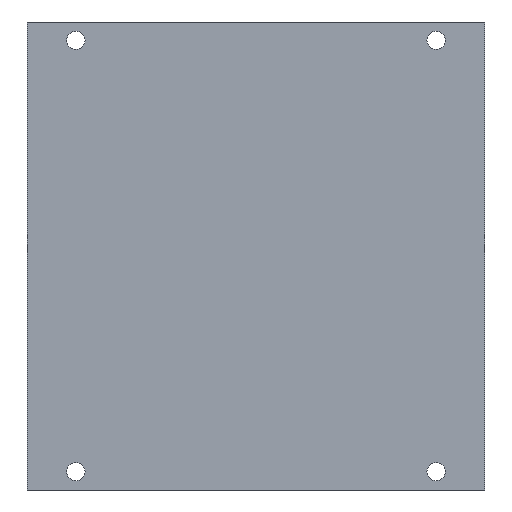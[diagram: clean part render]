
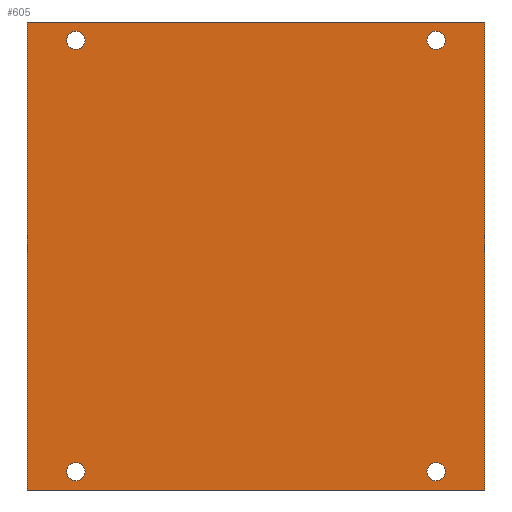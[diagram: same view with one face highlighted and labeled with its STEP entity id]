
A CAD part, front view. The second image highlights one B-rep face of the part: STEP entity #605.
In plain terms, the highlighted planar face has unit normal (0, -1, 0).
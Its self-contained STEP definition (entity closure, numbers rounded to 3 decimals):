
#18 = DIRECTION ( 'NONE',  ( 0., 1., 0. ) ) ;
#23 = FACE_BOUND ( 'NONE', #610, .T. ) ;
#31 = DIRECTION ( 'NONE',  ( 0., 1., 0. ) ) ;
#37 = CIRCLE ( 'NONE', #648, 0.9 ) ;
#39 = VERTEX_POINT ( 'NONE', #548 ) ;
#46 = ORIENTED_EDGE ( 'NONE', *, *, #581, .T. ) ;
#52 = AXIS2_PLACEMENT_3D ( 'NONE', #341, #337, #569 ) ;
#64 = LINE ( 'NONE', #635, #478 ) ;
#81 = CARTESIAN_POINT ( 'NONE',  ( -34.097, 0., -15.024 ) ) ;
#99 = EDGE_LOOP ( 'NONE', ( #46, #669 ) ) ;
#101 = DIRECTION ( 'NONE',  ( 0., 0., 1. ) ) ;
#102 = VERTEX_POINT ( 'NONE', #597 ) ;
#103 = DIRECTION ( 'NONE',  ( 0., 1., 0. ) ) ;
#106 = VERTEX_POINT ( 'NONE', #385 ) ;
#107 = DIRECTION ( 'NONE',  ( 0., 0., 1. ) ) ;
#109 = CARTESIAN_POINT ( 'NONE',  ( -69.497, 0., 27.376 ) ) ;
#121 = CARTESIAN_POINT ( 'NONE',  ( -74.297, 0., 29.176 ) ) ;
#138 = CIRCLE ( 'NONE', #197, 0.9 ) ;
#142 = FACE_OUTER_BOUND ( 'NONE', #378, .T. ) ;
#156 = CIRCLE ( 'NONE', #52, 0.9 ) ;
#165 = DIRECTION ( 'NONE',  ( 0., 0., 1. ) ) ;
#173 = CARTESIAN_POINT ( 'NONE',  ( -74.297, 0., -16.824 ) ) ;
#175 = VERTEX_POINT ( 'NONE', #432 ) ;
#178 = EDGE_CURVE ( 'NONE', #102, #677, #707, .T. ) ;
#180 = CARTESIAN_POINT ( 'NONE',  ( -74.297, 0., -16.824 ) ) ;
#186 = CARTESIAN_POINT ( 'NONE',  ( -69.497, 0., 26.476 ) ) ;
#197 = AXIS2_PLACEMENT_3D ( 'NONE', #268, #103, #101 ) ;
#211 = VERTEX_POINT ( 'NONE', #186 ) ;
#212 = CIRCLE ( 'NONE', #520, 0.9 ) ;
#213 = VECTOR ( 'NONE', #405, 1000. ) ;
#217 = ORIENTED_EDGE ( 'NONE', *, *, #366, .T. ) ;
#232 = VERTEX_POINT ( 'NONE', #474 ) ;
#233 = LINE ( 'NONE', #173, #311 ) ;
#236 = ORIENTED_EDGE ( 'NONE', *, *, #642, .T. ) ;
#238 = DIRECTION ( 'NONE',  ( 0., 0., 1. ) ) ;
#243 = LINE ( 'NONE', #348, #213 ) ;
#249 = DIRECTION ( 'NONE',  ( 0., 0., 1. ) ) ;
#255 = CARTESIAN_POINT ( 'NONE',  ( -69.497, 0., 27.376 ) ) ;
#268 = CARTESIAN_POINT ( 'NONE',  ( -34.097, 0., 27.376 ) ) ;
#276 = CARTESIAN_POINT ( 'NONE',  ( -69.497, 0., -15.024 ) ) ;
#278 = DIRECTION ( 'NONE',  ( 0., 0., 1. ) ) ;
#283 = VERTEX_POINT ( 'NONE', #644 ) ;
#291 = CARTESIAN_POINT ( 'NONE',  ( -34.097, 0., -14.124 ) ) ;
#299 = EDGE_LOOP ( 'NONE', ( #624, #692 ) ) ;
#300 = DIRECTION ( 'NONE',  ( 1., 0., 0. ) ) ;
#307 = EDGE_CURVE ( 'NONE', #677, #102, #212, .T. ) ;
#311 = VECTOR ( 'NONE', #238, 1000. ) ;
#313 = DIRECTION ( 'NONE',  ( 0., 1., 0. ) ) ;
#317 = CARTESIAN_POINT ( 'NONE',  ( -69.497, 0., -15.024 ) ) ;
#318 = DIRECTION ( 'NONE',  ( 0., 0., 1. ) ) ;
#324 = AXIS2_PLACEMENT_3D ( 'NONE', #317, #31, #705 ) ;
#328 = ORIENTED_EDGE ( 'NONE', *, *, #459, .F. ) ;
#334 = ORIENTED_EDGE ( 'NONE', *, *, #496, .F. ) ;
#337 = DIRECTION ( 'NONE',  ( 0., 1., 0. ) ) ;
#341 = CARTESIAN_POINT ( 'NONE',  ( -34.097, 0., -15.024 ) ) ;
#344 = VECTOR ( 'NONE', #300, 1000. ) ;
#348 = CARTESIAN_POINT ( 'NONE',  ( -29.297, 0., -16.824 ) ) ;
#363 = CARTESIAN_POINT ( 'NONE',  ( -34.097, 0., 27.376 ) ) ;
#364 = EDGE_CURVE ( 'NONE', #39, #211, #449, .T. ) ;
#366 = EDGE_CURVE ( 'NONE', #441, #175, #156, .T. ) ;
#369 = FACE_BOUND ( 'NONE', #434, .T. ) ;
#372 = CARTESIAN_POINT ( 'NONE',  ( 0., 0., 0. ) ) ;
#377 = PLANE ( 'NONE',  #539 ) ;
#378 = EDGE_LOOP ( 'NONE', ( #549, #334, #328, #516 ) ) ;
#385 = CARTESIAN_POINT ( 'NONE',  ( -34.097, 0., 26.476 ) ) ;
#387 = AXIS2_PLACEMENT_3D ( 'NONE', #109, #621, #107 ) ;
#389 = VERTEX_POINT ( 'NONE', #180 ) ;
#398 = VERTEX_POINT ( 'NONE', #700 ) ;
#405 = DIRECTION ( 'NONE',  ( 0., 0., -1. ) ) ;
#421 = FACE_BOUND ( 'NONE', #99, .T. ) ;
#432 = CARTESIAN_POINT ( 'NONE',  ( -34.097, 0., -15.924 ) ) ;
#434 = EDGE_LOOP ( 'NONE', ( #217, #566 ) ) ;
#438 = DIRECTION ( 'NONE',  ( 0., 1., 0. ) ) ;
#441 = VERTEX_POINT ( 'NONE', #291 ) ;
#449 = CIRCLE ( 'NONE', #387, 0.9 ) ;
#459 = EDGE_CURVE ( 'NONE', #232, #398, #243, .T. ) ;
#474 = CARTESIAN_POINT ( 'NONE',  ( -29.297, 0., 29.176 ) ) ;
#478 = VECTOR ( 'NONE', #630, 1000. ) ;
#490 = DIRECTION ( 'NONE',  ( 0., 0., 1. ) ) ;
#492 = AXIS2_PLACEMENT_3D ( 'NONE', #363, #588, #165 ) ;
#496 = EDGE_CURVE ( 'NONE', #398, #389, #64, .T. ) ;
#514 = AXIS2_PLACEMENT_3D ( 'NONE', #255, #313, #490 ) ;
#516 = ORIENTED_EDGE ( 'NONE', *, *, #523, .F. ) ;
#520 = AXIS2_PLACEMENT_3D ( 'NONE', #276, #438, #278 ) ;
#523 = EDGE_CURVE ( 'NONE', #568, #232, #641, .T. ) ;
#539 = AXIS2_PLACEMENT_3D ( 'NONE', #372, #593, #318 ) ;
#548 = CARTESIAN_POINT ( 'NONE',  ( -69.497, 0., 28.276 ) ) ;
#549 = ORIENTED_EDGE ( 'NONE', *, *, #594, .F. ) ;
#566 = ORIENTED_EDGE ( 'NONE', *, *, #617, .T. ) ;
#568 = VERTEX_POINT ( 'NONE', #694 ) ;
#569 = DIRECTION ( 'NONE',  ( 0., 0., 1. ) ) ;
#581 = EDGE_CURVE ( 'NONE', #283, #106, #585, .T. ) ;
#585 = CIRCLE ( 'NONE', #492, 0.9 ) ;
#588 = DIRECTION ( 'NONE',  ( 0., 1., 0. ) ) ;
#593 = DIRECTION ( 'NONE',  ( 0., 1., 0. ) ) ;
#594 = EDGE_CURVE ( 'NONE', #389, #568, #233, .T. ) ;
#595 = CARTESIAN_POINT ( 'NONE',  ( -69.497, 0., -14.124 ) ) ;
#597 = CARTESIAN_POINT ( 'NONE',  ( -69.497, 0., -15.924 ) ) ;
#605 = ADVANCED_FACE ( 'NONE', ( #717, #369, #421, #23, #142 ), #377, .F. ) ;
#610 = EDGE_LOOP ( 'NONE', ( #748, #236 ) ) ;
#617 = EDGE_CURVE ( 'NONE', #175, #441, #37, .T. ) ;
#621 = DIRECTION ( 'NONE',  ( 0., 1., 0. ) ) ;
#624 = ORIENTED_EDGE ( 'NONE', *, *, #307, .T. ) ;
#630 = DIRECTION ( 'NONE',  ( -1., 0., 0. ) ) ;
#635 = CARTESIAN_POINT ( 'NONE',  ( -74.297, 0., -16.824 ) ) ;
#641 = LINE ( 'NONE', #121, #344 ) ;
#642 = EDGE_CURVE ( 'NONE', #211, #39, #745, .T. ) ;
#644 = CARTESIAN_POINT ( 'NONE',  ( -34.097, 0., 28.276 ) ) ;
#648 = AXIS2_PLACEMENT_3D ( 'NONE', #81, #18, #249 ) ;
#665 = EDGE_CURVE ( 'NONE', #106, #283, #138, .T. ) ;
#669 = ORIENTED_EDGE ( 'NONE', *, *, #665, .T. ) ;
#677 = VERTEX_POINT ( 'NONE', #595 ) ;
#692 = ORIENTED_EDGE ( 'NONE', *, *, #178, .T. ) ;
#694 = CARTESIAN_POINT ( 'NONE',  ( -74.297, 0., 29.176 ) ) ;
#700 = CARTESIAN_POINT ( 'NONE',  ( -29.297, 0., -16.824 ) ) ;
#705 = DIRECTION ( 'NONE',  ( 0., 0., 1. ) ) ;
#707 = CIRCLE ( 'NONE', #324, 0.9 ) ;
#717 = FACE_BOUND ( 'NONE', #299, .T. ) ;
#745 = CIRCLE ( 'NONE', #514, 0.9 ) ;
#748 = ORIENTED_EDGE ( 'NONE', *, *, #364, .T. ) ;
